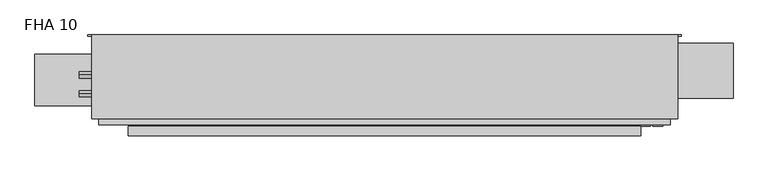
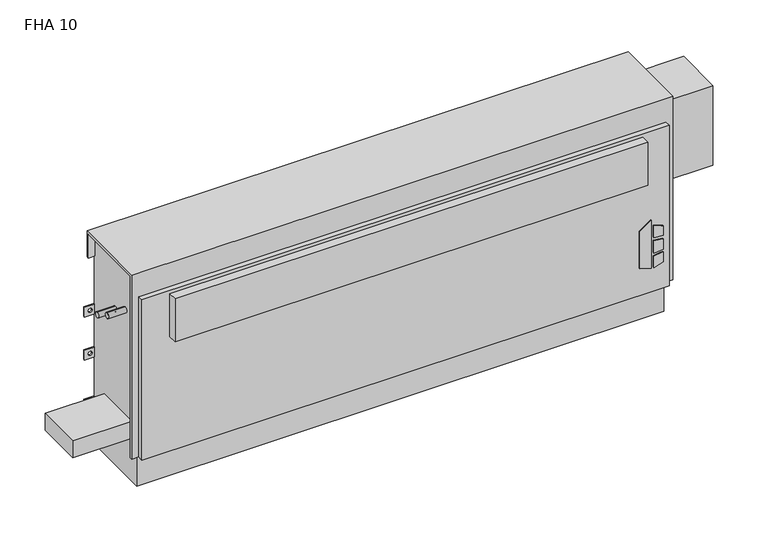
"""IFC4 building model written with IfcOpenShell, lengths in millimetres: proxy geometry, Vertical_Fan_Coil_Unit_-_FHA_-_IEC_-_2-Pipe_FS-FR_LH_2022 : FHA 10."""

import ifcopenshell
import ifcopenshell.guid

model = None  # the IFC model being written
_history = None  # IfcOwnerHistory: only IFC2X3 demands one
_inside = {}  # id of a spatial element -> (the spatial element, [elements in it])
_under = {}  # id of a project, library or spatial element -> (it, [spatial elements below it])
_declared = {}  # id of a project -> (the project, [libraries it declares])
_typed = {}  # id of a type object -> (the type object, [elements of that type])
_made_of = {}  # id of a material, layer set ... -> (it, [elements and type objects made of it])


def new_model(schema):
    """Start an empty IFC model of exactly this schema.

    Asked for "IFC4X3", IfcOpenShell would pick the latest addendum, in which some entities
    have other attributes; the version numbers below select the first issue.
    IFC2X3 requires an IfcOwnerHistory on every rooted entity: one is made here for all.
    """
    global model, _history
    if schema == "IFC4X3":
        model = ifcopenshell.file(schema_version=(4, 3, 0, 0))
    else:
        model = ifcopenshell.file(schema=schema)
    _inside.clear()
    _under.clear()
    _declared.clear()
    _typed.clear()
    _made_of.clear()
    _history = None
    if model.schema == "IFC2X3":
        org = make("IfcOrganization", Name="unknown")
        user = make(
            "IfcPersonAndOrganization",
            ThePerson=make("IfcPerson", FamilyName="unknown"),
            TheOrganization=org,
        )
        app = make(
            "IfcApplication",
            ApplicationDeveloper=org,
            Version="unknown",
            ApplicationFullName="unknown",
            ApplicationIdentifier="unknown",
        )
        _history = make(
            "IfcOwnerHistory",
            OwningUser=user,
            OwningApplication=app,
            ChangeAction="ADDED",
            CreationDate=0,
        )
    return model


def make(cls, **values):
    """One entity of the class cls with the attributes given. An attribute that is None is left unset."""
    return model.create_entity(
        cls, **{name: value for name, value in values.items() if value is not None}
    )


def rooted(cls, **values):
    """An entity with a GlobalId (a new one), such as an element, a storey or a relation."""
    return make(cls, GlobalId=ifcopenshell.guid.new(), OwnerHistory=_history, **values)


def si_unit(unit_type, name, prefix=None):
    """IfcSIUnit, for example si_unit("LENGTHUNIT", "METRE", prefix="MILLI")."""
    return make("IfcSIUnit", UnitType=unit_type, Prefix=prefix, Name=name)


def assignment(units):
    """IfcUnitAssignment: the units of a project."""
    return None if units is None else make("IfcUnitAssignment", Units=units)


def point(xyz):
    """IfcCartesianPoint."""
    return None if xyz is None else make("IfcCartesianPoint", Coordinates=xyz)


def direction(xyz):
    """IfcDirection."""
    return None if xyz is None else make("IfcDirection", DirectionRatios=xyz)


def frame(location, z_axis=None, x_axis=None):
    """IfcAxis2Placement3D, a coordinate frame: its origin and axes. An axis left out is left unset."""
    return make(
        "IfcAxis2Placement3D",
        Location=point(location),
        Axis=direction(z_axis),
        RefDirection=direction(x_axis),
    )


def frame_2d(location, x_axis=None):
    """IfcAxis2Placement2D, a coordinate frame in the plane: its origin and x axis."""
    return make(
        "IfcAxis2Placement2D", Location=point(location), RefDirection=direction(x_axis)
    )


def origin():
    """The frame at (0, 0, 0) with its axes left unset."""
    return frame((0.0, 0.0, 0.0))


def place(relative_to, where):
    """IfcLocalPlacement: puts the frame where relative to a parent placement (None: the world)."""
    return make(
        "IfcLocalPlacement", PlacementRelTo=relative_to, RelativePlacement=where
    )


def context(
    kind, dimensions, precision=None, world=None, true_north=None, identifier=None
):
    """IfcGeometricRepresentationContext, for example the 3D "Model" context."""
    return make(
        "IfcGeometricRepresentationContext",
        ContextIdentifier=identifier,
        ContextType=kind,
        CoordinateSpaceDimension=dimensions,
        Precision=precision,
        WorldCoordinateSystem=world,
        TrueNorth=true_north,
    )


def project(units=None, contexts=None):
    """IfcProject with its units and contexts."""
    return rooted(
        "IfcProject",
        Name="project",
        RepresentationContexts=contexts,
        UnitsInContext=assignment(units),
    )


def spatial(cls, under=None, at=None, **own):
    """A site, building, storey or space (cls), placed at a placement, below another one or the project."""
    s = rooted(cls, ObjectPlacement=at, **own)
    if under is not None:
        _under.setdefault(under.id(), (under, []))[1].append(s)
    return s


def polyline(points):
    """IfcPolyline through the points."""
    return make("IfcPolyline", Points=[point(p) for p in points])


def circle_curve(where, radius):
    """IfcCircle in the frame where."""
    return make("IfcCircle", Position=where, Radius=radius)


def trimmed(basis, trim1, trim2, sense, master):
    """IfcTrimmedCurve: the piece of a basis curve between two trims."""
    return make(
        "IfcTrimmedCurve",
        BasisCurve=basis,
        Trim1=trim1,
        Trim2=trim2,
        SenseAgreement=sense,
        MasterRepresentation=master,
    )


def segment(curve, same_sense, transition):
    """IfcCompositeCurveSegment."""
    return make(
        "IfcCompositeCurveSegment",
        Transition=transition,
        SameSense=same_sense,
        ParentCurve=curve,
    )


def composite_curve(segments, self_intersect=None):
    """IfcCompositeCurve: segments joined end to end."""
    return make("IfcCompositeCurve", Segments=segments, SelfIntersect=self_intersect)


def outline(outer, holes=None, kind="AREA"):
    """IfcArbitraryClosedProfileDef: a profile drawn as a closed curve; with holes, ...WithVoids."""
    if holes is None:
        return make("IfcArbitraryClosedProfileDef", ProfileType=kind, OuterCurve=outer)
    return make(
        "IfcArbitraryProfileDefWithVoids",
        ProfileType=kind,
        OuterCurve=outer,
        InnerCurves=holes,
    )


def extrude(swept, where, along, depth):
    """IfcExtrudedAreaSolid: the profile swept, set in the frame where, extruded along a direction by depth."""
    return make(
        "IfcExtrudedAreaSolid",
        SweptArea=swept,
        Position=where,
        ExtrudedDirection=direction(along),
        Depth=depth,
    )


def shape(context_of_items, identifier, shape_type, items):
    """IfcShapeRepresentation: the items that make up one representation, for example the "Body"."""
    return make(
        "IfcShapeRepresentation",
        ContextOfItems=context_of_items,
        RepresentationIdentifier=identifier,
        RepresentationType=shape_type,
        Items=items,
    )


def source(mapping_origin, context_of_items, identifier, shape_type, items):
    """IfcRepresentationMap: a shape defined once, which mapped items show again and again."""
    return make(
        "IfcRepresentationMap",
        MappingOrigin=mapping_origin,
        MappedRepresentation=shape(context_of_items, identifier, shape_type, items),
    )


def transform(
    local_origin,
    x_axis=None,
    y_axis=None,
    z_axis=None,
    scale=None,
    scale2=None,
    scale3=None,
    uniform=True,
):
    """IfcCartesianTransformationOperator3D, or its non-uniform kind. x_axis, y_axis, z_axis: its Axis1, 2, 3."""
    if uniform:
        return make(
            "IfcCartesianTransformationOperator3D",
            Axis1=direction(x_axis),
            Axis2=direction(y_axis),
            LocalOrigin=point(local_origin),
            Scale=scale,
            Axis3=direction(z_axis),
        )
    return make(
        "IfcCartesianTransformationOperator3DnonUniform",
        Axis1=direction(x_axis),
        Axis2=direction(y_axis),
        LocalOrigin=point(local_origin),
        Scale=scale,
        Axis3=direction(z_axis),
        Scale2=scale2,
        Scale3=scale3,
    )


def mapped(mapping_source, mapping_target):
    """IfcMappedItem: shows the shape of a source again, moved by a transform."""
    return make(
        "IfcMappedItem", MappingSource=mapping_source, MappingTarget=mapping_target
    )


def made_of(thing, what):
    """Note that an element or type object is made of a material, layer set ...; save() writes the relation."""
    if what is not None:
        _made_of.setdefault(what.id(), (what, []))[1].append(thing)
    return thing


def element(
    cls,
    number,
    at=None,
    inside=None,
    cuts=None,
    type_object=None,
    material=None,
    context=None,
    identifier="Body",
    shape_type=None,
    held_by="IfcProductDefinitionShape",
    body=None,
    shapes=None,
    **own,
):
    """One element of the class cls, such as IfcWall. Its Tag is "e" and its number.

    at: its placement. inside: the storey or other place that contains it. cuts: it is an
    opening in that element (IfcRelVoidsElement). A single representation is given by context,
    identifier, shape_type and body (its items); several are given by shapes. held_by: the class
    of the entity that holds the representations. save() writes the other relations.
    """
    e = rooted(cls, Tag="e%d" % number, ObjectPlacement=at, **own)
    if body is not None:
        shapes = [shape(context, identifier, shape_type, body)]
    if shapes is not None:
        e.Representation = make(held_by, Representations=shapes)
    if inside is not None:
        _inside.setdefault(inside.id(), (inside, []))[1].append(e)
    if cuts is not None:
        rooted(
            "IfcRelVoidsElement", RelatingBuildingElement=cuts, RelatedOpeningElement=e
        )
    if type_object is not None:
        _typed.setdefault(type_object.id(), (type_object, []))[1].append(e)
    return made_of(e, material)


def aggregate(whole, parts):
    """IfcRelAggregates: a whole, such as a stair, and the parts it consists of."""
    return rooted("IfcRelAggregates", RelatingObject=whole, RelatedObjects=parts)


def save(model, path):
    """Write the relations noted so far, then the file.

    IfcRelAggregates (storeys below a building ...), IfcRelContainedInSpatialStructure (elements
    in a storey), IfcRelDefinesByType, IfcRelAssociatesMaterial and IfcRelDeclares: one each for
    every whole, place, type object, material and project.
    """
    for whole, parts in _under.values():
        aggregate(whole, parts)
    for where, things in _inside.values():
        rooted(
            "IfcRelContainedInSpatialStructure",
            RelatedElements=things,
            RelatingStructure=where,
        )
    for kind, things in _typed.values():
        rooted("IfcRelDefinesByType", RelatedObjects=things, RelatingType=kind)
    for what, things in _made_of.values():
        rooted("IfcRelAssociatesMaterial", RelatedObjects=things, RelatingMaterial=what)
    for by, libraries in _declared.values():
        rooted("IfcRelDeclares", RelatingContext=by, RelatedDefinitions=libraries)
    model.write(path)


def plane_surface(at):
    """IfcPlane: the flat surface through the origin of the frame at, square to its z axis."""
    return make("IfcPlane", Position=at)


def revolved_surface(curve, axis_point, axis_direction):
    """IfcSurfaceOfRevolution: the curve turned about the line through axis_point along axis_direction."""
    return make(
        "IfcSurfaceOfRevolution",
        SweptCurve=make("IfcArbitraryOpenProfileDef", ProfileType="CURVE", Curve=curve),
        AxisPosition=make("IfcAxis1Placement", Location=point(axis_point), Axis=direction(axis_direction)),
    )


def advanced_brep(points, edges, surfaces, faces):
    """IfcAdvancedBrep: a solid bounded by faces that lie on surfaces and meet in shared edges.

    An edge is (start, end): straight between two places in points (the first is 0);
    or (start, end, curve); or (start, end, curve, False) where it runs against its curve.
    A face is (place in surfaces, loops), or (place, loops, False) where it looks against
    its surface's normal. A loop lists edges by number (the first is 1), with a minus sign
    where the edge is run from its end to its start. The first loop is the outer one.
    """
    corners = [point(p) for p in points]
    vertices = [make("IfcVertexPoint", VertexGeometry=c) for c in corners]
    made = []
    for start, end, *more in edges:
        made.append(
            make(
                "IfcEdgeCurve",
                EdgeStart=vertices[start],
                EdgeEnd=vertices[end],
                EdgeGeometry=more[0] if more else make("IfcPolyline", Points=[corners[start], corners[end]]),
                SameSense=more[1] if len(more) > 1 else True,
            )
        )
    hull = []
    for where, loops, *sense in faces:
        bounds = []
        for j, loop in enumerate(loops):
            ring = [make("IfcOrientedEdge", EdgeElement=made[abs(k) - 1], Orientation=k > 0) for k in loop]
            bounds.append(
                make(
                    "IfcFaceOuterBound" if j == 0 else "IfcFaceBound",
                    Bound=make("IfcEdgeLoop", EdgeList=ring),
                    Orientation=True,
                )
            )
        hull.append(make("IfcAdvancedFace", Bounds=bounds, FaceSurface=surfaces[where], SameSense=sense[0] if sense else True))
    return make("IfcAdvancedBrep", Outer=make("IfcClosedShell", CfsFaces=hull))


def fha_10_e1ab0dcf(model_context):
    return source(origin(), model_context, "Body", "SolidModel", [
        extrude(outline(polyline([(172.5771459, 804.9368862), (162.6290756, 837.1102728), (304.8, 837.1102728), (281.7779939, 804.9368862), (172.5771459, 804.9368862)])), frame((0.0, 9.525, 0.0), z_axis=(0.0, 1.0, 0.0), x_axis=(0.0, 0.0, 1.0)), (0.0, 0.0, 1.0), 3.175),
        extrude(outline(polyline([(251.5764313, 843.8686058), (248.3740387, 869.95), (277.6028798, 869.95), (285.6672948, 843.8686058), (251.5764313, 843.8686058)])), frame((0.0, 9.525, 0.0), z_axis=(0.0, 1.0, 0.0), x_axis=(0.0, 0.0, 1.0)), (0.0, 0.0, 1.0), 3.175),
        extrude(outline(polyline([(199.7129044, 869.95), (196.0474034, 843.8686058), (162.6290756, 843.8686058), (171.2633128, 869.95), (199.7129044, 869.95)])), frame((0.0, 9.525, 0.0), z_axis=(0.0, 1.0, 0.0), x_axis=(0.0, 0.0, 1.0)), (0.0, 0.0, 1.0), 3.175),
        extrude(outline(polyline([(239.0280658, 869.95), (241.3098921, 843.8686058), (205.3723436, 843.8686058), (208.1136086, 869.95), (239.0280658, 869.95)])), frame((0.0, 9.525, 0.0), z_axis=(0.0, 1.0, 0.0), x_axis=(0.0, 0.0, 1.0)), (0.0, 0.0, 1.0), 3.175),
        extrude(outline(composite_curve([segment(trimmed(circle_curve(frame_2d((-647.7, 128.5875)), 9.525), [point((-657.225, 128.5875))], [point((-638.175, 128.5875))], False, "CARTESIAN"), True, "CONTINUOUS"), segment(trimmed(circle_curve(frame_2d((-647.7, 128.5875)), 9.525), [point((-638.175, 128.5875))], [point((-657.225, 128.5875))], False, "CARTESIAN"), True, "CONTINUOUS")], self_intersect=False)), frame((0.0, 0.0, 101.6), z_axis=(0.0, 0.0, 1.0), x_axis=(1.0, 0.0, 0.0)), (0.0, 0.0, 1.0), 25.4),
        extrude(outline(polyline([(-749.3, 61.9125), (-749.3, 195.2625), (-584.2, 195.2625), (-584.2, 61.9125), (-749.3, 61.9125)])), frame((0.0, 0.0, 127.0), z_axis=(0.0, 0.0, 1.0), x_axis=(1.0, 0.0, 0.0)), (0.0, 0.0, 1.0), 50.8),
        extrude(outline(polyline([(812.8, -15.875), (-508.0, -15.875), (-508.0, 9.525), (812.8, 9.525), (812.8, -15.875)])), frame((0.0, 0.0, 431.8), z_axis=(0.0, 0.0, 1.0), x_axis=(1.0, 0.0, 0.0)), (0.0, 0.0, 1.0), 127.0),
        extrude(outline(composite_curve([segment(trimmed(circle_curve(frame_2d((93.1926, 488.0102)), 7.9375), [point((93.1926, 495.9477))], [point((93.1926, 480.0727))], False, "CARTESIAN"), True, "CONTINUOUS"), segment(trimmed(circle_curve(frame_2d((93.1926, 488.0102)), 7.9375), [point((93.1926, 480.0727))], [point((93.1926, 495.9477))], False, "CARTESIAN"), True, "CONTINUOUS")], self_intersect=False)), frame((-635.0, 0.0, 0.0), z_axis=(1.0, 0.0, 0.0), x_axis=(0.0, 1.0, 0.0)), (0.0, 0.0, 1.0), 50.8),
        extrude(outline(composite_curve([segment(trimmed(circle_curve(frame_2d((141.3002, 461.3402)), 7.9375), [point((141.3002, 469.2777))], [point((141.3002, 453.4027))], False, "CARTESIAN"), True, "CONTINUOUS"), segment(trimmed(circle_curve(frame_2d((141.3002, 461.3402)), 7.9375), [point((141.3002, 453.4027))], [point((141.3002, 469.2777))], False, "CARTESIAN"), True, "CONTINUOUS")], self_intersect=False)), frame((-635.0, 0.0, 0.0), z_axis=(1.0, 0.0, 0.0), x_axis=(0.0, 1.0, 0.0)), (0.0, 0.0, 1.0), 50.8),
        extrude(outline(polyline([(1050.925, 223.266), (1050.925, 81.534), (889.0, 81.534), (889.0, 223.266), (1050.925, 223.266)])), frame((0.0, 0.0, 349.25), z_axis=(0.0, 0.0, 1.0), x_axis=(1.0, 0.0, 0.0)), (0.0, 0.0, 1.0), 234.95),
        advanced_brep(
        [(908.05, 244.475, 635.0), (-603.25, 244.475, 635.0), (-603.25, 28.575, 635.0), (908.05, 28.575, 635.0), (-584.2, 244.475, 0.0), (889.0, 244.475, 0.0), (889.0, 38.1, 0.0), (-584.2, 38.1, 0.0), (908.05, 244.475, 558.8), (889.0, 244.475, 558.8), (889.0, 244.475, 414.3375), (917.575, 244.475, 414.3375), (917.575, 244.475, 385.7625), (889.0, 244.475, 385.7625), (889.0, 244.475, 287.3375), (917.575, 244.475, 287.3375), (917.575, 244.475, 258.7625), (889.0, 244.475, 258.7625), (889.0, 244.475, 141.2875), (917.575, 244.475, 141.2875), (917.575, 244.475, 112.7125), (889.0, 244.475, 112.7125), (-584.2, 244.475, 112.7125), (-612.775, 244.475, 112.7125), (-612.775, 244.475, 141.2875), (-584.2, 244.475, 141.2875), (-584.2, 244.475, 258.7625), (-612.775, 244.475, 258.7625), (-612.775, 244.475, 287.3375), (-584.2, 244.475, 287.3375), (-584.2, 244.475, 385.7625), (-612.775, 244.475, 385.7625), (-612.775, 244.475, 414.3375), (-584.2, 244.475, 414.3375), (-584.2, 244.475, 558.8), (-603.25, 244.475, 558.8), (907.2626, 244.475, 127.0), (896.1374, 244.475, 127.0), (-591.3374, 244.475, 127.0), (-602.4626, 244.475, 127.0), (907.2626, 244.475, 273.05), (896.1374, 244.475, 273.05), (-591.3374, 244.475, 273.05), (-602.4626, 244.475, 273.05), (907.2626, 244.475, 400.05), (896.1374, 244.475, 400.05), (-591.3374, 244.475, 400.05), (-602.4626, 244.475, 400.05), (-603.25, 238.125, 558.8), (-603.25, 238.125, 628.65), (-603.25, 34.925, 628.65), (-603.25, 34.925, 92.075), (-603.25, 28.575, 92.075), (889.0, 12.7, 565.15), (-584.2, 12.7, 565.15), (-584.2, 12.7, 92.075), (889.0, 12.7, 92.075), (908.05, 28.575, 92.075), (908.05, 34.925, 92.075), (908.05, 34.925, 628.65), (908.05, 238.125, 628.65), (908.05, 238.125, 558.8), (-584.2, 28.575, 92.075), (-584.2, 28.575, 565.15), (889.0, 28.575, 565.15), (889.0, 28.575, 92.075), (-584.2, 34.925, 92.075), (-584.2, 38.1, 92.075), (889.0, 38.1, 92.075), (889.0, 34.925, 92.075), (889.0, 241.3, 112.7125), (889.0, 241.3, 141.2875), (889.0, 241.3, 258.7625), (889.0, 241.3, 287.3375), (889.0, 241.3, 385.7625), (889.0, 241.3, 414.3375), (889.0, 238.125, 558.8), (889.0, 238.125, 628.65), (889.0, 34.925, 628.65), (-584.2, 34.925, 628.65), (-584.2, 238.125, 628.65), (-584.2, 238.125, 558.8), (-584.2, 241.3, 414.3375), (-584.2, 241.3, 385.7625), (-584.2, 241.3, 287.3375), (-584.2, 241.3, 258.7625), (-584.2, 241.3, 141.2875), (-584.2, 241.3, 112.7125), (917.575, 241.3, 112.7125), (917.575, 241.3, 141.2875), (896.1374, 241.3, 127.0), (907.2626, 241.3, 127.0), (917.575, 241.3, 258.7625), (917.575, 241.3, 287.3375), (896.1374, 241.3, 273.05), (907.2626, 241.3, 273.05), (917.575, 241.3, 385.7625), (917.575, 241.3, 414.3375), (896.1374, 241.3, 400.05), (907.2626, 241.3, 400.05), (-612.775, 241.3, 141.2875), (-612.775, 241.3, 112.7125), (-602.4626, 241.3, 127.0), (-591.3374, 241.3, 127.0), (-612.775, 241.3, 287.3375), (-612.775, 241.3, 258.7625), (-602.4626, 241.3, 273.05), (-591.3374, 241.3, 273.05), (-612.775, 241.3, 414.3375), (-612.775, 241.3, 385.7625), (-602.4626, 241.3, 400.05), (-591.3374, 241.3, 400.05)],
        [
            (0, 1),
            (1, 2),
            (2, 3),
            (3, 0),
            (4, 5),
            (5, 6),
            (6, 7),
            (7, 4),
            (0, 8),
            (8, 9),
            (9, 10),
            (10, 11),
            (11, 12),
            (12, 13),
            (13, 14),
            (14, 15),
            (15, 16),
            (16, 17),
            (17, 18),
            (18, 19),
            (19, 20),
            (20, 21),
            (21, 5),
            (4, 22),
            (22, 23),
            (23, 24),
            (24, 25),
            (25, 26),
            (26, 27),
            (27, 28),
            (28, 29),
            (29, 30),
            (30, 31),
            (31, 32),
            (32, 33),
            (33, 34),
            (34, 35),
            (35, 1),
            (36, 37, circle_curve(frame((901.7, 244.475, 127.0), z_axis=(0.0, -1.0, 0.0), x_axis=(-1.0, 0.0, 0.0)), 5.5626)),
            (37, 36, circle_curve(frame((901.7, 244.475, 127.0), z_axis=(0.0, -1.0, 0.0), x_axis=(-1.0, 0.0, 0.0)), 5.5626)),
            (38, 39, circle_curve(frame((-596.9, 244.475, 127.0), z_axis=(0.0, -1.0, 0.0), x_axis=(-1.0, 0.0, 0.0)), 5.5626)),
            (39, 38, circle_curve(frame((-596.9, 244.475, 127.0), z_axis=(0.0, -1.0, 0.0), x_axis=(-1.0, 0.0, 0.0)), 5.5626)),
            (40, 41, circle_curve(frame((901.7, 244.475, 273.05), z_axis=(0.0, -1.0, 0.0), x_axis=(-1.0, 0.0, 0.0)), 5.5626)),
            (41, 40, circle_curve(frame((901.7, 244.475, 273.05), z_axis=(0.0, -1.0, 0.0), x_axis=(-1.0, 0.0, 0.0)), 5.5626)),
            (42, 43, circle_curve(frame((-596.9, 244.475, 273.05), z_axis=(0.0, -1.0, 0.0), x_axis=(-1.0, 0.0, 0.0)), 5.5626)),
            (43, 42, circle_curve(frame((-596.9, 244.475, 273.05), z_axis=(0.0, -1.0, 0.0), x_axis=(-1.0, 0.0, 0.0)), 5.5626)),
            (44, 45, circle_curve(frame((901.7, 244.475, 400.05), z_axis=(0.0, -1.0, 0.0), x_axis=(-1.0, 0.0, 0.0)), 5.5626)),
            (45, 44, circle_curve(frame((901.7, 244.475, 400.05), z_axis=(0.0, -1.0, 0.0), x_axis=(-1.0, 0.0, 0.0)), 5.5626)),
            (46, 47, circle_curve(frame((-596.9, 244.475, 400.05), z_axis=(0.0, -1.0, 0.0), x_axis=(-1.0, 0.0, 0.0)), 5.5626)),
            (47, 46, circle_curve(frame((-596.9, 244.475, 400.05), z_axis=(0.0, -1.0, 0.0), x_axis=(-1.0, 0.0, 0.0)), 5.5626)),
            (35, 48),
            (48, 49),
            (49, 50),
            (50, 51),
            (51, 52),
            (52, 2),
            (53, 54),
            (54, 55),
            (55, 56),
            (56, 53),
            (3, 57),
            (57, 58),
            (58, 59),
            (59, 60),
            (60, 61),
            (61, 8),
            (52, 62),
            (62, 63),
            (63, 64),
            (64, 65),
            (65, 57),
            (53, 64),
            (63, 54),
            (55, 62),
            (51, 66),
            (66, 67),
            (67, 68),
            (68, 69),
            (69, 58),
            (65, 56),
            (6, 68),
            (67, 7),
            (21, 70),
            (70, 71),
            (71, 18),
            (17, 72),
            (72, 73),
            (73, 14),
            (13, 74),
            (74, 75),
            (75, 10),
            (9, 76),
            (76, 77),
            (77, 78),
            (78, 69),
            (66, 79),
            (79, 80),
            (80, 81),
            (81, 34),
            (33, 82),
            (82, 83),
            (83, 30),
            (29, 84),
            (84, 85),
            (85, 26),
            (25, 86),
            (86, 87),
            (87, 22),
            (76, 61),
            (60, 77),
            (78, 59),
            (50, 79),
            (81, 48),
            (80, 49),
            (70, 88),
            (88, 89),
            (89, 71),
            (90, 91, circle_curve(frame((901.7, 241.3, 127.0), z_axis=(0.0, 1.0, 0.0), x_axis=(-1.0, 0.0, 0.0)), 5.5626)),
            (91, 90, circle_curve(frame((901.7, 241.3, 127.0), z_axis=(0.0, 1.0, 0.0), x_axis=(-1.0, 0.0, 0.0)), 5.5626)),
            (92, 93),
            (93, 73),
            (72, 92),
            (94, 95, circle_curve(frame((901.7, 241.3, 273.05), z_axis=(0.0, 1.0, 0.0), x_axis=(-1.0, 0.0, 0.0)), 5.5626)),
            (95, 94, circle_curve(frame((901.7, 241.3, 273.05), z_axis=(0.0, 1.0, 0.0), x_axis=(-1.0, 0.0, 0.0)), 5.5626)),
            (96, 97),
            (97, 75),
            (74, 96),
            (98, 99, circle_curve(frame((901.7, 241.3, 400.05), z_axis=(0.0, 1.0, 0.0), x_axis=(-1.0, 0.0, 0.0)), 5.5626)),
            (99, 98, circle_curve(frame((901.7, 241.3, 400.05), z_axis=(0.0, 1.0, 0.0), x_axis=(-1.0, 0.0, 0.0)), 5.5626)),
            (100, 101),
            (101, 87),
            (86, 100),
            (102, 103, circle_curve(frame((-596.9, 241.3, 127.0), z_axis=(0.0, 1.0, 0.0), x_axis=(-1.0, 0.0, 0.0)), 5.5626)),
            (103, 102, circle_curve(frame((-596.9, 241.3, 127.0), z_axis=(0.0, 1.0, 0.0), x_axis=(-1.0, 0.0, 0.0)), 5.5626)),
            (84, 104),
            (104, 105),
            (105, 85),
            (106, 107, circle_curve(frame((-596.9, 241.3, 273.05), z_axis=(0.0, 1.0, 0.0), x_axis=(-1.0, 0.0, 0.0)), 5.5626)),
            (107, 106, circle_curve(frame((-596.9, 241.3, 273.05), z_axis=(0.0, 1.0, 0.0), x_axis=(-1.0, 0.0, 0.0)), 5.5626)),
            (108, 109),
            (109, 83),
            (82, 108),
            (110, 111, circle_curve(frame((-596.9, 241.3, 400.05), z_axis=(0.0, 1.0, 0.0), x_axis=(-1.0, 0.0, 0.0)), 5.5626)),
            (111, 110, circle_curve(frame((-596.9, 241.3, 400.05), z_axis=(0.0, 1.0, 0.0), x_axis=(-1.0, 0.0, 0.0)), 5.5626)),
            (89, 19),
            (88, 20),
            (16, 92),
            (93, 15),
            (12, 96),
            (97, 11),
            (24, 100),
            (101, 23),
            (105, 27),
            (104, 28),
            (32, 108),
            (109, 31),
            (90, 37),
            (36, 91),
            (102, 39),
            (38, 103),
            (94, 41),
            (40, 95),
            (106, 43),
            (42, 107),
            (98, 45),
            (44, 99),
            (110, 47),
            (46, 111),
        ],
        [
            plane_surface(frame((-603.25, 244.475, 635.0), z_axis=(0.0, 0.0, 1.0), x_axis=(-1.0, 0.0, 0.0))),
            plane_surface(frame((-603.25, 244.475, 0.0), z_axis=(0.0, 0.0, -1.0), x_axis=(1.0, 0.0, 0.0))),
            plane_surface(frame((908.05, 244.475, 635.0), z_axis=(0.0, 1.0, 0.0), x_axis=(0.0, 0.0, -1.0))),
            plane_surface(frame((-603.25, 244.475, 635.0), z_axis=(-1.0, 0.0, 0.0), x_axis=(0.0, 0.0, -1.0))),
            plane_surface(frame((-603.25, 12.7, 635.0), z_axis=(0.0, -1.0, 0.0), x_axis=(0.0, 0.0, -1.0))),
            plane_surface(frame((908.05, 12.7, 635.0), z_axis=(1.0, 0.0, 0.0), x_axis=(0.0, 0.0, -1.0))),
            plane_surface(frame((-1060.45, 28.575, 635.0), z_axis=(0.0, -1.0, 0.0), x_axis=(1.0, 0.0, 0.0))),
            plane_surface(frame((-1060.45, 28.575, 565.15), z_axis=(0.0, 0.0, 1.0), x_axis=(1.0, 0.0, 0.0))),
            plane_surface(frame((-603.25, 12.7, 92.075), z_axis=(0.0, 0.0, -1.0), x_axis=(1.0, 0.0, 0.0))),
            plane_surface(frame((-603.25, 38.1, 92.075), z_axis=(0.0, -1.0, 0.0), x_axis=(1.0, 0.0, 0.0))),
            plane_surface(frame((889.0, 28.575, 92.075), z_axis=(1.0, 0.0, 0.0), x_axis=(0.0, -1.0, 0.0))),
            plane_surface(frame((-584.2, 28.575, 565.15), z_axis=(-1.0, 0.0, 0.0), x_axis=(0.0, -1.0, 0.0))),
            plane_surface(frame((889.0, 244.475, 0.0), z_axis=(1.0, 0.0, 0.0), x_axis=(0.0, -1.0, 0.0))),
            plane_surface(frame((-584.2, 244.475, 92.075), z_axis=(-1.0, 0.0, 0.0), x_axis=(0.0, -1.0, 0.0))),
            plane_surface(frame((889.0, 238.125, 628.65), z_axis=(0.0, -1.0, 0.0), x_axis=(1.0, 0.0, 0.0))),
            plane_surface(frame((889.0, 238.125, 558.8), z_axis=(0.0, 0.0, -1.0), x_axis=(1.0, 0.0, 0.0))),
            plane_surface(frame((889.0, 34.925, 92.075), z_axis=(0.0, 1.0, 0.0), x_axis=(1.0, 0.0, 0.0))),
            plane_surface(frame((889.0, 34.925, 628.65), z_axis=(0.0, 0.0, -1.0), x_axis=(1.0, 0.0, 0.0))),
            plane_surface(frame((-584.2, 34.925, 628.65), z_axis=(0.0, 1.0, 0.0), x_axis=(-1.0, 0.0, 0.0))),
            plane_surface(frame((-584.2, 244.475, 558.8), z_axis=(0.0, 0.0, -1.0), x_axis=(-1.0, 0.0, 0.0))),
            plane_surface(frame((-584.2, 238.125, 558.8), z_axis=(0.0, -1.0, 0.0), x_axis=(-1.0, 0.0, 0.0))),
            plane_surface(frame((-584.2, 238.125, 628.65), z_axis=(0.0, 0.0, -1.0), x_axis=(-1.0, 0.0, 0.0))),
            plane_surface(frame((917.575, 241.3, 141.2875), z_axis=(0.0, -1.0, 0.0), x_axis=(-1.0, 0.0, 0.0))),
            plane_surface(frame((889.0, 244.475, 141.2875), z_axis=(0.0, 0.0, 1.0), x_axis=(0.0, -1.0, 0.0))),
            plane_surface(frame((917.575, 244.475, 141.2875), z_axis=(1.0, 0.0, 0.0), x_axis=(0.0, -1.0, 0.0))),
            plane_surface(frame((917.575, 244.475, 112.7125), z_axis=(0.0, 0.0, -1.0), x_axis=(0.0, -1.0, 0.0))),
            plane_surface(frame((917.575, 244.475, 258.7625), z_axis=(0.0, 0.0, -1.0), x_axis=(0.0, -1.0, 0.0))),
            plane_surface(frame((889.0, 244.475, 287.3375), z_axis=(0.0, 0.0, 1.0), x_axis=(0.0, -1.0, 0.0))),
            plane_surface(frame((917.575, 244.475, 287.3375), z_axis=(1.0, 0.0, 0.0), x_axis=(0.0, -1.0, 0.0))),
            plane_surface(frame((917.575, 244.475, 385.7625), z_axis=(0.0, 0.0, -1.0), x_axis=(0.0, -1.0, 0.0))),
            plane_surface(frame((889.0, 244.475, 414.3375), z_axis=(0.0, 0.0, 1.0), x_axis=(0.0, -1.0, 0.0))),
            plane_surface(frame((917.575, 244.475, 414.3375), z_axis=(1.0, 0.0, 0.0), x_axis=(0.0, -1.0, 0.0))),
            plane_surface(frame((-612.775, 244.475, 141.2875), z_axis=(0.0, 0.0, 1.0), x_axis=(0.0, -1.0, 0.0))),
            plane_surface(frame((-584.2, 244.475, 112.7125), z_axis=(0.0, 0.0, -1.0), x_axis=(0.0, -1.0, 0.0))),
            plane_surface(frame((-612.775, 244.475, 112.7125), z_axis=(-1.0, 0.0, 0.0), x_axis=(0.0, -1.0, 0.0))),
            plane_surface(frame((-584.2, 244.475, 258.7625), z_axis=(0.0, 0.0, -1.0), x_axis=(0.0, -1.0, 0.0))),
            plane_surface(frame((-612.775, 244.475, 258.7625), z_axis=(-1.0, 0.0, 0.0), x_axis=(0.0, -1.0, 0.0))),
            plane_surface(frame((-612.775, 244.475, 287.3375), z_axis=(0.0, 0.0, 1.0), x_axis=(0.0, -1.0, 0.0))),
            plane_surface(frame((-612.775, 244.475, 414.3375), z_axis=(0.0, 0.0, 1.0), x_axis=(0.0, -1.0, 0.0))),
            plane_surface(frame((-584.2, 244.475, 385.7625), z_axis=(0.0, 0.0, -1.0), x_axis=(0.0, -1.0, 0.0))),
            plane_surface(frame((-612.775, 244.475, 385.7625), z_axis=(-1.0, 0.0, 0.0), x_axis=(0.0, -1.0, 0.0))),
            revolved_surface(polyline([(896.1374000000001, 241.3, 127.0), (896.1374000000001, 244.475, 127.0)]), (901.7, 244.475, 127.0), (0.0, -1.0, 0.0)),
            revolved_surface(polyline([(-602.4626, 241.3, 127.0), (-602.4626, 244.475, 127.0)]), (-596.9, 244.475, 127.0), (0.0, -1.0, 0.0)),
            revolved_surface(polyline([(896.1374000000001, 241.3, 273.05), (896.1374000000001, 244.475, 273.05)]), (901.7, 244.475, 273.05), (0.0, -1.0, 0.0)),
            revolved_surface(polyline([(-602.4626, 241.3, 273.05), (-602.4626, 244.475, 273.05)]), (-596.9, 244.475, 273.05), (0.0, -1.0, 0.0)),
            revolved_surface(polyline([(896.1374000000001, 241.3, 400.05), (896.1374000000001, 244.475, 400.05)]), (901.7, 244.475, 400.05), (0.0, -1.0, 0.0)),
            revolved_surface(polyline([(-602.4626, 241.3, 400.05), (-602.4626, 244.475, 400.05)]), (-596.9, 244.475, 400.05), (0.0, -1.0, 0.0)),
        ],
        [
            (0, [[1, 2, 3, 4]]),
            (1, [[5, 6, 7, 8]]),
            (2, [[-1, 9, 10, 11, 12, 13, 14, 15, 16, 17, 18, 19, 20, 21, 22, 23, -5, 24, 25, 26, 27, 28, 29, 30, 31, 32, 33, 34, 35, 36, 37, 38], [39, 40], [41, 42], [43, 44], [45, 46], [47, 48], [49, 50]]),
            (3, [[-2, -38, 51, 52, 53, 54, 55, 56]]),
            (4, [[57, 58, 59, 60]]),
            (5, [[-4, 61, 62, 63, 64, 65, 66, -9]]),
            (6, [[-3, -56, 67, 68, 69, 70, 71, -61]]),
            (7, [[-57, 72, -69, 73]]),
            (8, [[-59, 74, -67, -55, 75, 76, 77, 78, 79, -62, -71, 80]]),
            (9, [[-7, 81, -77, 82]]),
            (10, [[-70, -72, -60, -80]]),
            (11, [[-68, -74, -58, -73]]),
            (12, [[-6, -23, 83, 84, 85, -19, 86, 87, 88, -15, 89, 90, 91, -11, 92, 93, 94, 95, -78, -81]]),
            (13, [[-8, -82, -76, 96, 97, 98, 99, -36, 100, 101, 102, -32, 103, 104, 105, -28, 106, 107, 108, -24]]),
            (14, [[-93, 109, -65, 110]]),
            (15, [[-92, -10, -66, -109]]),
            (16, [[-95, 111, -63, -79]]),
            (17, [[-94, -110, -64, -111]]),
            (18, [[-96, -75, -54, 112]]),
            (19, [[-99, 113, -51, -37]]),
            (20, [[-98, 114, -52, -113]]),
            (21, [[-97, -112, -53, -114]]),
            (22, [[115, 116, 117, -84], [118, 119]]),
            (22, [[120, 121, -87, 122], [123, 124]]),
            (22, [[125, 126, -90, 127], [128, 129]]),
            (22, [[130, 131, -107, 132], [133, 134]]),
            (22, [[135, 136, 137, -104], [138, 139]]),
            (22, [[140, 141, -101, 142], [143, 144]]),
            (23, [[-117, 145, -20, -85]]),
            (24, [[-116, 146, -21, -145]]),
            (25, [[-115, -83, -22, -146]]),
            (26, [[-122, -86, -18, 147]]),
            (27, [[-121, 148, -16, -88]]),
            (28, [[-120, -147, -17, -148]]),
            (29, [[-127, -89, -14, 149]]),
            (30, [[-126, 150, -12, -91]]),
            (31, [[-125, -149, -13, -150]]),
            (32, [[-132, -106, -27, 151]]),
            (33, [[-131, 152, -25, -108]]),
            (34, [[-130, -151, -26, -152]]),
            (35, [[-137, 153, -29, -105]]),
            (36, [[-136, 154, -30, -153]]),
            (37, [[-135, -103, -31, -154]]),
            (38, [[-142, -100, -35, 155]]),
            (39, [[-141, 156, -33, -102]]),
            (40, [[-140, -155, -34, -156]]),
            (41, [[157, -39, 158, -118]]),
            (41, [[-157, -119, -158, -40]]),
            (42, [[159, -41, 160, -133]]),
            (42, [[-159, -134, -160, -42]]),
            (43, [[161, -43, 162, -123]]),
            (43, [[-161, -124, -162, -44]]),
            (44, [[163, -45, 164, -138]]),
            (44, [[-163, -139, -164, -46]]),
            (45, [[165, -47, 166, -128]]),
            (45, [[-165, -129, -166, -48]]),
            (46, [[167, -49, 168, -143]]),
            (46, [[-167, -144, -168, -50]]),
        ],
    ),
    ])


if __name__ == "__main__":
    model = new_model("IFC4")
    model_context = context("Model", 3, world=origin())
    ifc_project = project(units=[si_unit("LENGTHUNIT", "METRE", prefix="MILLI")], contexts=[model_context])
    site = spatial("IfcSite", under=ifc_project)
    building = spatial("IfcBuilding", under=site)
    placement = place(None, origin())
    fha_10_shape = fha_10_e1ab0dcf(model_context)
    element("IfcBuildingElementProxy", 1, Name="Vertical_Fan_Coil_Unit_-_FHA_-_IEC_-_2-Pipe_FS-FR_LH_2022 : FHA 10", ObjectType="Vertical_Fan_Coil_Unit_-_FHA_-_IEC_-_2-Pipe_FS-FR_LH_2022 : FHA 10", at=placement, inside=building, context=model_context, shape_type="MappedRepresentation", body=[
        mapped(fha_10_shape, transform((0.0, 0.0, 0.0), x_axis=(1.0, 0.0, 0.0), y_axis=(0.0, 1.0, 0.0), z_axis=(0.0, 0.0, 1.0))),
    ])
    save(model, "model.ifc")
